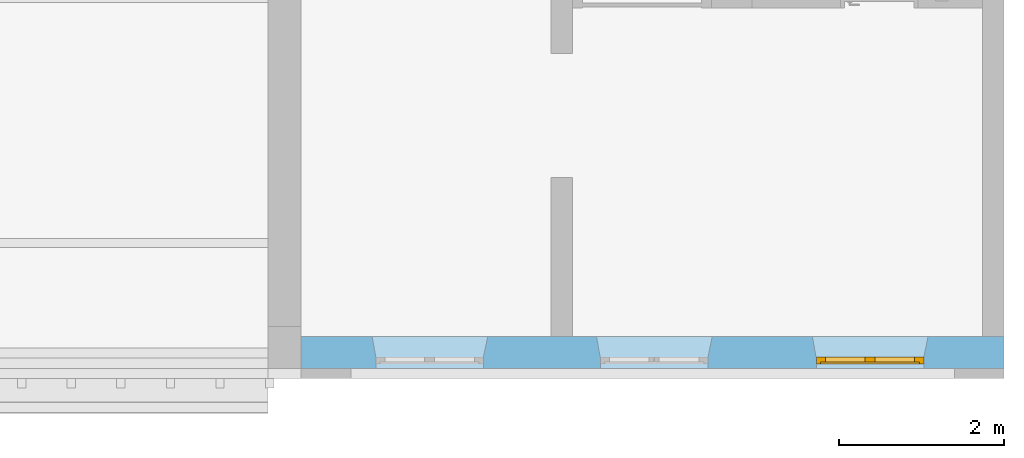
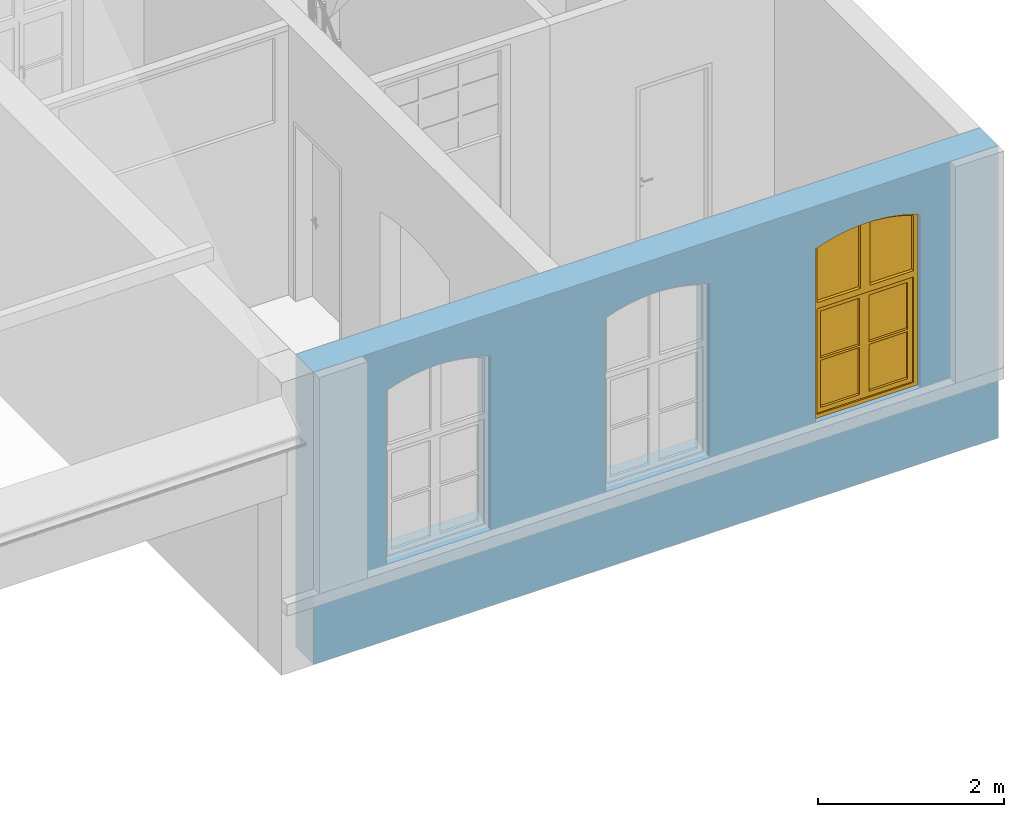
"""IFC4 building model written with IfcOpenShell, lengths in metres."""

from ifc_helpers import new_model, entity, si_unit, converted_unit, derived_unit, frame, frame_2d, origin, origin_with_axes, place, context, subcontext, project, spatial, polyline, rectangle, outline, extrude, closed_shell, open_shell, surface_model, source, transform, mapped, material, layer, layer_set, layer_usage, element, fill, save


model = new_model("IFC4")

# Units and contexts
model_context = context("Model", 3, precision=1e-05, world=origin())
body_context = subcontext(model_context, "Body", "Model", "MODEL_VIEW")
ifc_project = project(units=[si_unit("LENGTHUNIT", "METRE"), si_unit("AREAUNIT", "SQUARE_METRE"), si_unit("VOLUMEUNIT", "CUBIC_METRE"), si_unit("MASSUNIT", "GRAM", prefix="KILO"), converted_unit("PLANEANGLEUNIT", "DEGREE", entity("IfcPlaneAngleMeasure", 0.0174532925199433), si_unit("PLANEANGLEUNIT", "RADIAN"), dimensions=[0, 0, 0, 0, 0, 0, 0]), derived_unit("THERMALTRANSMITTANCEUNIT", [(si_unit("POWERUNIT", "WATT"), 1), (si_unit("THERMODYNAMICTEMPERATUREUNIT", "KELVIN"), -1), (si_unit("LENGTHUNIT", "METRE"), -2)]), derived_unit("VOLUMETRICFLOWRATEUNIT", [(si_unit("LENGTHUNIT", "METRE"), 3), (converted_unit("TIMEUNIT", "hour", entity("IfcTimeMeasure", 3600.0), si_unit("TIMEUNIT", "SECOND"), dimensions=[0, 0, 1, 0, 0, 0, 0]), -1), (si_unit("LENGTHUNIT", "METRE"), -1)])], contexts=[model_context])

# Building, storeys
building_placement = place(None, origin())
building = spatial("IfcBuilding", under=ifc_project, at=building_placement, Name="Bestandsgebäude A - Sporthalle / Wohnhaus (TB 100-499)   ANPASSEN !!!", CompositionType="ELEMENT")
storey_1_placement = place(building_placement, frame((0.0, 0.0, 3.87)))
storey_1 = spatial("IfcBuildingStorey", under=building, at=storey_1_placement, Name="Geb. A 1. Obergeschoss (TB 250-299)", CompositionType="ELEMENT", Elevation=3.87)
storey_2_placement = place(storey_1_placement, frame((0.0, 0.0, 3.87)))
storey_2 = spatial("IfcBuildingStorey", under=storey_1, at=storey_2_placement, Name="Architektur (TB 250-259)", CompositionType="PARTIAL")

# Wall, openings, window
ifc_material = material(Name="concrete")
ifc_layer = layer(ifc_material, 0.39)
ifc_layer_set = layer_set([ifc_layer])
ifc_layer_usage = layer_usage(ifc_layer_set, "AXIS2", "POSITIVE", 0.0)
wall_placement = place(storey_2_placement, frame((-8.5, 0.0, -4.27), z_axis=(0.0, 0.0, 1.0), x_axis=(1.0, -3.67027395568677e-16, 0.0)))
wall = element("IfcWall", 1, at=wall_placement, inside=storey_2, material=ifc_layer_usage, Name="reinforced - bearing", PredefinedType="USERDEFINED", context=body_context, shape_type="SweptSolid", body=[
    extrude(rectangle(XDim=8.5, YDim=0.39, at=frame_2d((4.25, 0.195), x_axis=(1.0, 0.0))), origin_with_axes(), (0.0, 0.0, 1.0), 3.84),
])
opening_1_placement = place(wall_placement, frame((7.58213541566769, 0.39, 1.0), z_axis=(0.0, 0.0, 1.0), x_axis=(-1.0, 0.0, 0.0)))
element("IfcOpeningElement", 2, at=opening_1_placement, cuts=wall, Name="Wall Niche", ObjectType="Opening", context=body_context, shape_type="SweptSolid", body=[
    extrude(outline(polyline([(0.0, 0.0), (1.4, 0.0), (1.3549652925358, 0.25), (0.0521354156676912, 0.25), (0.0, 0.0)])), origin_with_axes(), (0.0, 0.0, 1.0), 2.4),
])
opening_2_placement = place(wall_placement, frame((4.97156563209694, 0.39, 1.0), z_axis=(0.0, 0.0, 1.0), x_axis=(-1.0, 0.0, 0.0)))
element("IfcOpeningElement", 3, at=opening_2_placement, cuts=wall, Name="Wall Niche", ObjectType="Opening", context=body_context, shape_type="SweptSolid", body=[
    extrude(outline(polyline([(0.0, 0.0), (1.4, 0.0), (1.3549652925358, 0.25), (0.0515656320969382, 0.25), (0.0, 0.0)])), origin_with_axes(), (0.0, 0.0, 1.0), 2.4),
])
opening_3_placement = place(wall_placement, frame((2.25788092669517, 0.39, 1.0), z_axis=(0.0, 0.0, 1.0), x_axis=(-1.0, 0.0, 0.0)))
element("IfcOpeningElement", 4, at=opening_3_placement, cuts=wall, Name="Wall Niche", ObjectType="Opening", context=body_context, shape_type="SweptSolid", body=[
    extrude(outline(polyline([(0.0, 0.0), (1.4, 0.0), (1.35423986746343, 0.25), (0.0542398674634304, 0.25), (0.0, 0.0)])), origin_with_axes(), (0.0, 0.0, 1.0), 2.4),
])
opening_4_placement = place(wall_placement, frame((0.903641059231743, 0.0, 1.0), z_axis=(-2.91504712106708e-16, 1.0, 0.0), x_axis=(0.0, 0.0, 1.0)))
element("IfcOpeningElement", 5, at=opening_4_placement, cuts=wall, Name="Window opening", PredefinedType="OPENING", context=body_context, shape_type="SweptSolid", body=[
    extrude(outline(polyline([(2.28, 1.3), (2.29531656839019, 1.25842115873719), (2.30961661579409, 1.21648184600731), (2.3228916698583, 1.17420690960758), (2.33513386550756, 1.1316213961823), (2.34633594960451, 1.08875053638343), (2.35649128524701, 1.04561972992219), (2.36559385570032, 1.00225453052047), (2.37363826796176, 0.958680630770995), (2.38061975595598, 0.914923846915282), (2.38653418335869, 0.871010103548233), (2.39137804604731, 0.826965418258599), (2.39514847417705, 0.782815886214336), (2.39784323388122, 0.738587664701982), (2.39946072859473, 0.694306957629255), (2.4, 0.650000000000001), (2.39946072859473, 0.605693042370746), (2.39784323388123, 0.561412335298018), (2.39514847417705, 0.517184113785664), (2.39137804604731, 0.4730345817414), (2.38653418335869, 0.428989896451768), (2.38061975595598, 0.385076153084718), (2.37363826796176, 0.341319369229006), (2.36559385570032, 0.297745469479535), (2.35649128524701, 0.254380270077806), (2.3463359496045, 0.211249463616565), (2.33513386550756, 0.1683786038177), (2.3228916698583, 0.125793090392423), (2.30961661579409, 0.0835181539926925), (2.29531656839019, 0.0415788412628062), (2.28, 0.0), (0.0, 0.0), (0.0, 1.3), (2.28, 1.3)])), origin_with_axes(), (0.0, 0.0, 1.0), 0.39),
])
opening_5_placement = place(wall_placement, frame((3.62, 0.0, 1.0), z_axis=(0.0, 1.0, 0.0), x_axis=(0.0, 0.0, 1.0)))
element("IfcOpeningElement", 6, at=opening_5_placement, cuts=wall, Name="Window opening", PredefinedType="OPENING", context=body_context, shape_type="SweptSolid", body=[
    extrude(outline(polyline([(2.28, 1.3), (2.29531656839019, 1.25842115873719), (2.30961661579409, 1.21648184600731), (2.3228916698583, 1.17420690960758), (2.33513386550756, 1.1316213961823), (2.3463359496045, 1.08875053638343), (2.35649128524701, 1.04561972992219), (2.36559385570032, 1.00225453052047), (2.37363826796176, 0.958680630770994), (2.38061975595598, 0.914923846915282), (2.38653418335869, 0.871010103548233), (2.39137804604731, 0.826965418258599), (2.39514847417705, 0.782815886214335), (2.39784323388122, 0.738587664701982), (2.39946072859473, 0.694306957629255), (2.4, 0.65), (2.39946072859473, 0.605693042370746), (2.39784323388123, 0.561412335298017), (2.39514847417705, 0.517184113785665), (2.39137804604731, 0.4730345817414), (2.38653418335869, 0.428989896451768), (2.38061975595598, 0.385076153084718), (2.37363826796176, 0.341319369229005), (2.36559385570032, 0.297745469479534), (2.35649128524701, 0.254380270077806), (2.3463359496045, 0.211249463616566), (2.33513386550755, 0.1683786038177), (2.3228916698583, 0.125793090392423), (2.30961661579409, 0.0835181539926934), (2.29531656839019, 0.0415788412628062), (2.28, 0.0), (0.0, 0.0), (0.0, 1.3), (2.28, 1.3)])), origin_with_axes(), (0.0, 0.0, 1.0), 0.39),
])
opening_6_placement = place(wall_placement, frame((6.23, 0.0, 1.0), z_axis=(0.0, 1.0, 0.0), x_axis=(0.0, 0.0, 1.0)))
opening_6 = element("IfcOpeningElement", 7, at=opening_6_placement, cuts=wall, Name="Window opening", PredefinedType="OPENING", context=body_context, shape_type="SweptSolid", body=[
    extrude(outline(polyline([(2.28, 1.3), (2.29531656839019, 1.25842115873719), (2.30961661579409, 1.21648184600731), (2.3228916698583, 1.17420690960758), (2.33513386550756, 1.1316213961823), (2.3463359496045, 1.08875053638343), (2.35649128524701, 1.04561972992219), (2.36559385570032, 1.00225453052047), (2.37363826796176, 0.958680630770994), (2.38061975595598, 0.914923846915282), (2.38653418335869, 0.871010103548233), (2.39137804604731, 0.826965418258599), (2.39514847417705, 0.782815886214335), (2.39784323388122, 0.738587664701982), (2.39946072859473, 0.694306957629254), (2.4, 0.65), (2.39946072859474, 0.605693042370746), (2.39784323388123, 0.561412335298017), (2.39514847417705, 0.517184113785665), (2.39137804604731, 0.4730345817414), (2.38653418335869, 0.428989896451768), (2.38061975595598, 0.385076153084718), (2.37363826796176, 0.341319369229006), (2.36559385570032, 0.297745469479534), (2.35649128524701, 0.254380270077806), (2.3463359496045, 0.211249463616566), (2.33513386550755, 0.168378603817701), (2.3228916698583, 0.125793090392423), (2.30961661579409, 0.083518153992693), (2.29531656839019, 0.0415788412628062), (2.28, 0.0), (0.0, 0.0), (0.0, 1.3), (2.28, 1.3)])), origin_with_axes(), (0.0, 0.0, 1.0), 0.39),
])
shared_shape = source(origin_with_axes(), body_context, "Body", "SurfaceModel", [
    surface_model("IfcShellBasedSurfaceModel", [(1.258421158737, 0.0, 2.29531656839), (1.3, 0.0, 2.28), (1.3, 0.0, 0.0), (0.0, 0.0, 0.0), (0.0, 0.0, 2.28), (0.041578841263, 0.0, 2.29531656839), (0.0835181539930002, 0.0, 2.309616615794), (0.125793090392, 0.0, 2.322891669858), (0.168378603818, 0.0, 2.335133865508), (0.211249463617, 0.0, 2.346335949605), (0.254380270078, 0.0, 2.356491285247), (0.29774546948, 0.0, 2.3655938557), (0.341319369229, 0.0, 2.373638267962), (0.385076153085, 0.0, 2.380619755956), (0.428989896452, 0.0, 2.386534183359), (0.473034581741, 0.0, 2.391378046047), (0.517184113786, 0.0, 2.395148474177), (0.561412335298, 0.0, 2.397843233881), (0.605693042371, 0.0, 2.399460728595), (0.65, 0.0, 2.4), (0.694306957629, 0.0, 2.399460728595), (0.738587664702, 0.0, 2.397843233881), (0.782815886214, 0.0, 2.395148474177), (0.826965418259, 0.0, 2.391378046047), (0.871010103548, 0.0, 2.386534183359), (0.914923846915, 0.0, 2.380619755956), (0.958680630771, 0.0, 2.373638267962), (1.00225453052, 0.0, 2.3655938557), (1.045619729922, 0.0, 2.356491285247), (1.088750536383, 0.0, 2.346335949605), (1.131621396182, 0.0, 2.335133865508), (1.174206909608, 0.0, 2.322891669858), (1.216481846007, 0.0, 2.309616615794), (1.25, 0.0, 2.2451341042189), (1.2417088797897, 0.0, 2.2481883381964), (1.20092156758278, 0.0, 2.26209558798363), (1.15980785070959, 0.0, 2.27500599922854), (1.11839208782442, 0.0, 2.28691192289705), (1.07669881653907, 0.0, 2.2978063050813), (1.03475273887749, 0.0, 2.30768269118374), (0.992578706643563, 0.0, 2.31653522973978), (0.950201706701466, 0.0, 2.32435867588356), (0.907646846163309, 0.0, 2.33114839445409), (0.864939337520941, 0.0, 2.33690036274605), (0.822104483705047, 0.0, 2.34161117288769), (0.779167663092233, 0.0, 2.34527803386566), (0.736154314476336, 0.0, 2.34789877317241), (0.693089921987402, 0.0, 2.3494718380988), (0.65, 0.0, 2.34999629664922), (0.606910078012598, 0.0, 2.3494718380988), (0.563845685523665, 0.0, 2.34789877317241), (0.520832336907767, 0.0, 2.34527803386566), (0.477895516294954, 0.0, 2.34161117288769), (0.435060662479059, 0.0, 2.33690036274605), (0.392353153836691, 0.0, 2.33114839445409), (0.349798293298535, 0.0, 2.32435867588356), (0.307421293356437, 0.0, 2.31653522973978), (0.265247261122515, 0.0, 2.30768269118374), (0.223301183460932, 0.0, 2.2978063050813), (0.181607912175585, 0.0, 2.28691192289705), (0.140192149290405, 0.0, 2.27500599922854), (0.0990784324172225, 0.0, 2.26209558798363), (0.0582911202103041, 0.0, 2.2481883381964), (0.05, 0.0, 2.2451341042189), (0.05, 0.0, 0.05), (1.25, 0.0, 0.05), (1.3, 0.0799999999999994, 2.28), (1.258421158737, 0.0799999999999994, 2.29531656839), (1.216481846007, 0.0799999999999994, 2.309616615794), (1.174206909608, 0.0799999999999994, 2.322891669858), (1.131621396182, 0.0799999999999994, 2.335133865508), (1.088750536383, 0.0799999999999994, 2.346335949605), (1.045619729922, 0.0799999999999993, 2.356491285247), (1.00225453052, 0.0799999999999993, 2.3655938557), (0.958680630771, 0.0799999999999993, 2.373638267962), (0.914923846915, 0.0799999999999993, 2.380619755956), (0.871010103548, 0.0799999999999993, 2.386534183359), (0.826965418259, 0.0799999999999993, 2.391378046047), (0.782815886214, 0.0799999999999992, 2.395148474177), (0.738587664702, 0.0799999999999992, 2.397843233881), (0.694306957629, 0.0799999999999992, 2.399460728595), (0.65, 0.0799999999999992, 2.4), (0.605693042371, 0.0799999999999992, 2.399460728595), (0.561412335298, 0.0799999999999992, 2.397843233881), (0.517184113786, 0.0799999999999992, 2.395148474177), (0.473034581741, 0.0799999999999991, 2.391378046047), (0.428989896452, 0.0799999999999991, 2.386534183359), (0.385076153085, 0.0799999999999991, 2.380619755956), (0.341319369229, 0.0799999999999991, 2.373638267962), (0.29774546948, 0.0799999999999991, 2.3655938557), (0.254380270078, 0.0799999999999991, 2.356491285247), (0.211249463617, 0.079999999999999, 2.346335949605), (0.168378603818, 0.079999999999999, 2.335133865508), (0.125793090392, 0.079999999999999, 2.322891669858), (0.0835181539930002, 0.079999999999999, 2.309616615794), (0.041578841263, 0.079999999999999, 2.29531656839), (0.0, 0.079999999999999, 2.28), (0.0, 0.0799999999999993, 0.0), (1.3, 0.0799999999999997, 0.0), (1.2417088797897, 0.0799999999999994, 2.2481883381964), (1.25, 0.0799999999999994, 2.2451341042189), (1.25, 0.0799999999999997, 0.05), (0.05, 0.0799999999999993, 0.05), (0.05, 0.079999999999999, 2.2451341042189), (0.0582911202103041, 0.079999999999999, 2.2481883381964), (0.0990784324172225, 0.079999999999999, 2.26209558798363), (0.140192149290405, 0.079999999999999, 2.27500599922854), (0.181607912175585, 0.079999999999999, 2.28691192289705), (0.223301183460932, 0.079999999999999, 2.2978063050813), (0.265247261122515, 0.0799999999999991, 2.30768269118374), (0.307421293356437, 0.0799999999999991, 2.31653522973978), (0.349798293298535, 0.0799999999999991, 2.32435867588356), (0.392353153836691, 0.0799999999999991, 2.33114839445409), (0.435060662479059, 0.0799999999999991, 2.33690036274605), (0.477895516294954, 0.0799999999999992, 2.34161117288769), (0.520832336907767, 0.0799999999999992, 2.34527803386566), (0.563845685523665, 0.0799999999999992, 2.34789877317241), (0.606910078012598, 0.0799999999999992, 2.3494718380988), (0.65, 0.0799999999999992, 2.34999629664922), (0.693089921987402, 0.0799999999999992, 2.3494718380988), (0.736154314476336, 0.0799999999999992, 2.34789877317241), (0.779167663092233, 0.0799999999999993, 2.34527803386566), (0.822104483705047, 0.0799999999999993, 2.34161117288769), (0.864939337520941, 0.0799999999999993, 2.33690036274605), (0.907646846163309, 0.0799999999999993, 2.33114839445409), (0.950201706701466, 0.0799999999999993, 2.32435867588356), (0.992578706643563, 0.0799999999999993, 2.31653522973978), (1.03475273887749, 0.0799999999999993, 2.30768269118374), (1.07669881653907, 0.0799999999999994, 2.2978063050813), (1.11839208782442, 0.0799999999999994, 2.28691192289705), (1.15980785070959, 0.0799999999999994, 2.27500599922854), (1.20092156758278, 0.0799999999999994, 2.26209558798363)], [closed_shell([[[0, 1, 2, 3, 4, 5, 6, 7, 8, 9, 10, 11, 12, 13, 14, 15, 16, 17, 18, 19, 20, 21, 22, 23, 24, 25, 26, 27, 28, 29, 30, 31, 32], [33, 34, 35, 36, 37, 38, 39, 40, 41, 42, 43, 44, 45, 46, 47, 48, 49, 50, 51, 52, 53, 54, 55, 56, 57, 58, 59, 60, 61, 62, 63, 64, 65]], [[66, 67, 68, 69, 70, 71, 72, 73, 74, 75, 76, 77, 78, 79, 80, 81, 82, 83, 84, 85, 86, 87, 88, 89, 90, 91, 92, 93, 94, 95, 96, 97, 98], [99, 100, 101, 102, 103, 104, 105, 106, 107, 108, 109, 110, 111, 112, 113, 114, 115, 116, 117, 118, 119, 120, 121, 122, 123, 124, 125, 126, 127, 128, 129, 130, 131]], [[1, 0, 67, 66]], [[2, 1, 66, 98]], [[3, 2, 98, 97]], [[4, 3, 97, 96]], [[5, 4, 96, 95]], [[6, 5, 95, 94]], [[7, 6, 94, 93]], [[8, 7, 93, 92]], [[9, 8, 92, 91]], [[10, 9, 91, 90]], [[11, 10, 90, 89]], [[12, 11, 89, 88]], [[13, 12, 88, 87]], [[14, 13, 87, 86]], [[15, 14, 86, 85]], [[16, 15, 85, 84]], [[17, 16, 84, 83]], [[18, 17, 83, 82]], [[19, 18, 82, 81]], [[20, 19, 81, 80]], [[21, 20, 80, 79]], [[22, 21, 79, 78]], [[23, 22, 78, 77]], [[24, 23, 77, 76]], [[25, 24, 76, 75]], [[26, 25, 75, 74]], [[27, 26, 74, 73]], [[28, 27, 73, 72]], [[29, 28, 72, 71]], [[30, 29, 71, 70]], [[31, 30, 70, 69]], [[32, 31, 69, 68]], [[0, 32, 68, 67]], [[33, 100, 99, 34]], [[65, 101, 100, 33]], [[64, 102, 101, 65]], [[63, 103, 102, 64]], [[62, 104, 103, 63]], [[61, 105, 104, 62]], [[60, 106, 105, 61]], [[59, 107, 106, 60]], [[58, 108, 107, 59]], [[57, 109, 108, 58]], [[56, 110, 109, 57]], [[55, 111, 110, 56]], [[54, 112, 111, 55]], [[53, 113, 112, 54]], [[52, 114, 113, 53]], [[51, 115, 114, 52]], [[50, 116, 115, 51]], [[49, 117, 116, 50]], [[48, 118, 117, 49]], [[47, 119, 118, 48]], [[46, 120, 119, 47]], [[45, 121, 120, 46]], [[44, 122, 121, 45]], [[43, 123, 122, 44]], [[42, 124, 123, 43]], [[41, 125, 124, 42]], [[40, 126, 125, 41]], [[39, 127, 126, 40]], [[38, 128, 127, 39]], [[37, 129, 128, 38]], [[36, 130, 129, 37]], [[35, 131, 130, 36]], [[34, 99, 131, 35]]], orient=[[False, False], [False, False], [False], [False], [False], [False], [False], [False], [False], [False], [False], [False], [False], [False], [False], [False], [False], [False], [False], [False], [False], [False], [False], [False], [False], [False], [False], [False], [False], [False], [False], [False], [False], [False], [False], [False], [False], [False], [False], [False], [False], [False], [False], [False], [False], [False], [False], [False], [False], [False], [False], [False], [False], [False], [False], [False], [False], [False], [False], [False], [False], [False], [False], [False], [False], [False], [False], [False]])]),
    surface_model("IfcShellBasedSurfaceModel", [(1.25, 0.0, 1.5156198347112), (1.25, 0.0, 1.4356198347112), (0.05, 0.0, 1.4356198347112), (0.05, 0.0, 1.5156198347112), (1.25, 0.0799999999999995, 1.4356198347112), (1.25, 0.0799999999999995, 1.5156198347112), (0.05, 0.0799999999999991, 1.5156198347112), (0.05, 0.0799999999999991, 1.4356198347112)], [closed_shell([[[0, 1, 2, 3]], [[4, 5, 6, 7]], [[1, 0, 5, 4]], [[2, 1, 4, 7]], [[3, 2, 7, 6]], [[0, 3, 6, 5]]], orient=[[False], [False], [False], [False], [False], [False]])]),
    surface_model("IfcShellBasedSurfaceModel", [(0.71, 0.0, 2.34885414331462), (0.71, 0.0, 1.5156198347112), (0.59, 0.0, 1.5156198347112), (0.59, 0.0, 2.34885414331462), (0.606910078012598, 0.0, 2.3494718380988), (0.65, 0.0, 2.34999629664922), (0.693089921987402, 0.0, 2.3494718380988), (0.71, 0.0799999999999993, 1.5156198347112), (0.71, 0.0799999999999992, 2.34885414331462), (0.693089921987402, 0.0799999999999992, 2.3494718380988), (0.65, 0.0799999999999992, 2.34999629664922), (0.606910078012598, 0.0799999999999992, 2.3494718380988), (0.59, 0.0799999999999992, 2.34885414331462), (0.59, 0.0799999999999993, 1.5156198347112)], [closed_shell([[[0, 1, 2, 3, 4, 5, 6]], [[7, 8, 9, 10, 11, 12, 13]], [[1, 0, 8, 7]], [[2, 1, 7, 13]], [[3, 2, 13, 12]], [[4, 3, 12, 11]], [[5, 4, 11, 10]], [[6, 5, 10, 9]], [[0, 6, 9, 8]]], orient=[[False], [False], [False], [False], [False], [False], [False], [False], [False]])]),
    surface_model("IfcShellBasedSurfaceModel", [(0.6505, 0.0, 0.05), (0.6505, 0.0, 1.4356198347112), (1.25, 0.0, 1.4356198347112), (1.25, 0.0, 0.05), (0.7105, 0.0, 1.3756198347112), (0.7105, 0.0, 0.11), (1.19, 0.0, 0.11), (1.19, 0.0, 1.3756198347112), (0.6505, 0.0599999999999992, 1.4356198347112), (0.6505, 0.0599999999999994, 0.05), (1.25, 0.0599999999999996, 0.05), (1.25, 0.0599999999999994, 1.4356198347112), (0.7105, 0.0599999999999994, 0.11), (0.7105, 0.0599999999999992, 1.3756198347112), (1.19, 0.0599999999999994, 1.3756198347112), (1.19, 0.0599999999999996, 0.11)], [closed_shell([[[0, 1, 2, 3], [4, 5, 6, 7]], [[8, 9, 10, 11], [12, 13, 14, 15]], [[1, 0, 9, 8]], [[2, 1, 8, 11]], [[3, 2, 11, 10]], [[0, 3, 10, 9]], [[4, 13, 12, 5]], [[7, 14, 13, 4]], [[6, 15, 14, 7]], [[5, 12, 15, 6]]], orient=[[False, False], [False, False], [False], [False], [False], [False], [False], [False], [False], [False]])]),
    surface_model("IfcShellBasedSurfaceModel", [(0.6495, 0.0, 1.4356198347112), (0.6495, 0.0, 0.05), (0.05, 0.0, 0.05), (0.05, 0.0, 1.4356198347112), (0.5895, 0.0, 0.11), (0.5895, 0.0, 1.3756198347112), (0.11, 0.0, 1.3756198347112), (0.11, 0.0, 0.11), (0.6495, 0.0599999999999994, 0.05), (0.6495, 0.0599999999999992, 1.4356198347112), (0.05, 0.059999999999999, 1.4356198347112), (0.05, 0.0599999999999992, 0.05), (0.5895, 0.0599999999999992, 1.3756198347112), (0.5895, 0.0599999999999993, 0.11), (0.11, 0.0599999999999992, 0.11), (0.11, 0.059999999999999, 1.3756198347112)], [closed_shell([[[0, 1, 2, 3], [4, 5, 6, 7]], [[8, 9, 10, 11], [12, 13, 14, 15]], [[1, 0, 9, 8]], [[2, 1, 8, 11]], [[3, 2, 11, 10]], [[0, 3, 10, 9]], [[4, 13, 12, 5]], [[7, 14, 13, 4]], [[6, 15, 14, 7]], [[5, 12, 15, 6]]], orient=[[False, False], [False, False], [False], [False], [False], [False], [False], [False], [False], [False]])]),
    surface_model("IfcShellBasedSurfaceModel", [(0.5895, 0.0, 0.7578099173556), (0.5895, 0.0, 0.7278099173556), (0.11, 0.0, 0.7278099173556), (0.11, 0.0, 0.7578099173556), (0.5895, 0.0599999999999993, 0.7278099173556), (0.5895, 0.0599999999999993, 0.7578099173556), (0.11, 0.0599999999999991, 0.7578099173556), (0.11, 0.0599999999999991, 0.7278099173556)], [closed_shell([[[0, 1, 2, 3]], [[4, 5, 6, 7]], [[1, 0, 5, 4]], [[2, 1, 4, 7]], [[3, 2, 7, 6]], [[0, 3, 6, 5]]], orient=[[False], [False], [False], [False], [False], [False]])]),
    surface_model("IfcShellBasedSurfaceModel", [(1.2417088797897, 0.0399999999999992, 2.2481883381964), (1.25, 0.0399999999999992, 2.2451341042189), (1.25, 0.0399999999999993, 1.5156198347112), (0.71, 0.0399999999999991, 1.5156198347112), (0.71, 0.039999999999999, 2.34885414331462), (0.736154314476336, 0.039999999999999, 2.34789877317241), (0.779167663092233, 0.039999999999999, 2.34527803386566), (0.822104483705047, 0.039999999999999, 2.34161117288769), (0.864939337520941, 0.0399999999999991, 2.33690036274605), (0.907646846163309, 0.0399999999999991, 2.33114839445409), (0.950201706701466, 0.0399999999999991, 2.32435867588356), (0.992578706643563, 0.0399999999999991, 2.31653522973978), (1.03475273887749, 0.0399999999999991, 2.30768269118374), (1.07669881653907, 0.0399999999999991, 2.2978063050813), (1.11839208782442, 0.0399999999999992, 2.28691192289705), (1.15980785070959, 0.0399999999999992, 2.27500599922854), (1.20092156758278, 0.0399999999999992, 2.26209558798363)], [open_shell([[[0, 1, 2, 3, 4, 5, 6, 7, 8, 9, 10, 11, 12, 13, 14, 15, 16]]], orient=[[False]])]),
    surface_model("IfcShellBasedSurfaceModel", [(0.563845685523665, 0.0399999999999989, 2.34789877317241), (0.59, 0.0399999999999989, 2.34885414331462), (0.59, 0.0399999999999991, 1.5156198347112), (0.05, 0.0399999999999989, 1.5156198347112), (0.05, 0.0399999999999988, 2.2451341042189), (0.0582911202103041, 0.0399999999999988, 2.2481883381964), (0.0990784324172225, 0.0399999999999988, 2.26209558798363), (0.140192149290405, 0.0399999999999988, 2.27500599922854), (0.181607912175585, 0.0399999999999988, 2.28691192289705), (0.223301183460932, 0.0399999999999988, 2.2978063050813), (0.265247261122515, 0.0399999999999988, 2.30768269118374), (0.307421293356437, 0.0399999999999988, 2.31653522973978), (0.349798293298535, 0.0399999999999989, 2.32435867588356), (0.392353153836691, 0.0399999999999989, 2.33114839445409), (0.435060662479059, 0.0399999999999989, 2.33690036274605), (0.477895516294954, 0.0399999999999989, 2.34161117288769), (0.520832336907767, 0.0399999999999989, 2.34527803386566)], [open_shell([[[0, 1, 2, 3, 4, 5, 6, 7, 8, 9, 10, 11, 12, 13, 14, 15, 16]]], orient=[[False]])]),
    surface_model("IfcShellBasedSurfaceModel", [(0.5895, 0.0299999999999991, 0.7278099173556), (0.5895, 0.0299999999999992, 0.11), (0.11, 0.029999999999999, 0.11), (0.11, 0.0299999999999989, 0.7278099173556)], [open_shell([[[0, 1, 2, 3]]], orient=[[False]])]),
    surface_model("IfcShellBasedSurfaceModel", [(0.11, 0.0299999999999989, 0.7578099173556), (0.11, 0.0299999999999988, 1.3756198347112), (0.5895, 0.029999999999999, 1.3756198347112), (0.5895, 0.0299999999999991, 0.7578099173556)], [open_shell([[[0, 1, 2, 3]]], orient=[[False]])]),
    surface_model("IfcShellBasedSurfaceModel", [(1.19, 0.0, 0.7578099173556), (1.19, 0.0, 0.7278099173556), (0.7105, 0.0, 0.7278099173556), (0.7105, 0.0, 0.7578099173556), (1.19, 0.0599999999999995, 0.7278099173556), (1.19, 0.0599999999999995, 0.7578099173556), (0.7105, 0.0599999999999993, 0.7578099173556), (0.7105, 0.0599999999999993, 0.7278099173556)], [closed_shell([[[0, 1, 2, 3]], [[4, 5, 6, 7]], [[1, 0, 5, 4]], [[2, 1, 4, 7]], [[3, 2, 7, 6]], [[0, 3, 6, 5]]], orient=[[False], [False], [False], [False], [False], [False]])]),
    surface_model("IfcShellBasedSurfaceModel", [(1.19, 0.0299999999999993, 0.7278099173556), (1.19, 0.0299999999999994, 0.11), (0.7105, 0.0299999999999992, 0.11), (0.7105, 0.0299999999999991, 0.7278099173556)], [open_shell([[[0, 1, 2, 3]]], orient=[[False]])]),
    surface_model("IfcShellBasedSurfaceModel", [(0.7105, 0.0299999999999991, 0.7578099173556), (0.7105, 0.029999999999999, 1.3756198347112), (1.19, 0.0299999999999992, 1.3756198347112), (1.19, 0.0299999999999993, 0.7578099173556)], [open_shell([[[0, 1, 2, 3]]], orient=[[False]])]),
    surface_model("IfcShellBasedSurfaceModel", [(0.11, 0.0299999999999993, 0.11), (0.5895, 0.0299999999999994, 0.7428099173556), (0.11, 0.0299999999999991, 1.3756198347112)], [open_shell([[[0, 1, 2]]], orient=[[False]])]),
])
window_placement = place(opening_6_placement, frame((0.0, 1.3, 0.14), z_axis=(1.0, 0.0, 0.0), x_axis=(0.0, -1.0, 0.0)))
window = element("IfcWindow", 8, at=window_placement, inside=storey_2, Name="Window", OverallHeight=2.4, OverallWidth=1.3, PartitioningType="USERDEFINED", PredefinedType="WINDOW", context=body_context, shape_type="MappedRepresentation", body=[
    mapped(shared_shape, transform((0.0, 0.0, 0.0), x_axis=(1.0, 0.0, 0.0), y_axis=(0.0, 1.0, 0.0), z_axis=(0.0, 0.0, 1.0), scale=1.0)),
])
fill(opening_6, window)

save(model, "model.ifc")
